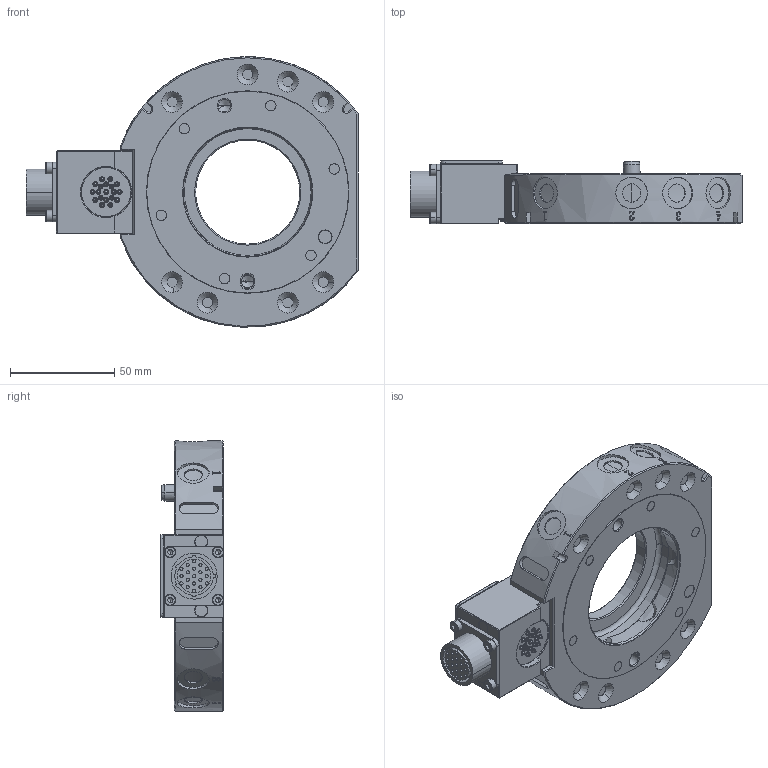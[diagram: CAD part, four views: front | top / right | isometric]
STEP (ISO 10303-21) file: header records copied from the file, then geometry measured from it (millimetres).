
FILE_DESCRIPTION (( 'STEP AP214' ), '1' );
FILE_NAME ('SQ--75.STEP', '2021-03-12T02:42:46', ( '' ), ( '' ), 'SwSTEP 2.0', 'SolidWorks 2018', '' );
FILE_SCHEMA (( 'AUTOMOTIVE_DESIGN' ));
Length unit declared in the file: millimetre
Products named in the file (1): SQ--75
Bounding box: 159.5 x 30.6 x 129.92 mm (x, y, z)
Volume: 259380.4 mm3; surface area: 57972.8 mm2
Topology: 1 solids, 65 shells, 1765 faces, 4241 edges, 2609 vertices
Faces by surface type: cylinder 557, plane 498, cone 473, bspline 150, torus 49, sphere 38
Entity records: 70909 total; most frequent: CARTESIAN_POINT 30020, DIRECTION 8532, ORIENTED_EDGE 8198, EDGE_CURVE 4099, AXIS2_PLACEMENT_3D 3428, VERTEX_POINT 2571, EDGE_LOOP 1970, CIRCLE 1812
